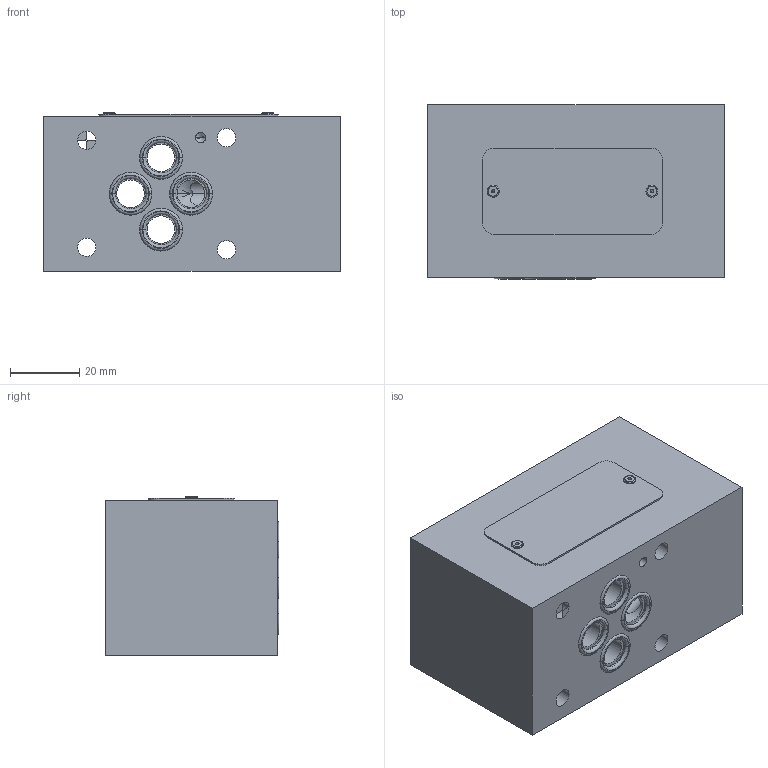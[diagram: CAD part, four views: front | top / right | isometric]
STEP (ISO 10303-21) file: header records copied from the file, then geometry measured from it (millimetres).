
FILE_DESCRIPTION((''),'2;1');
FILE_NAME('30708100_ASM','2023-10-12T',('l.soukupova'),(''),'PRO/ENGINEER BY PARAMETRIC TECHNOLOGY CORPORATION, 2015440','PRO/ENGINEER BY PARAMETRIC TECHNOLOGY CORPORATION, 2015440','');
FILE_SCHEMA(('AUTOMOTIVE_DESIGN { 1 0 10303 214 1 1 1 1 }'));
Length unit declared in the file: millimetre
Products named in the file (8): 30708201; RD_LABEL_25X52_159703; AF_1932_16485; ORAR00012_201524_AF4; ORAR00012_201524_AF5; ORAR00012_201524_AF6; ORAR00012_201524_AF7; 30708100_ASM
Assembly tree (8 placements, depth 2):
  30708100_ASM
    30708201
    RD_LABEL_25X52_159703
    AF_1932_16485  x2
    ORAR00012_201524_AF4
    ORAR00012_201524_AF5
    ORAR00012_201524_AF6
    ORAR00012_201524_AF7
Bounding box: 86 x 50.38 x 46 mm (x, y, z)
Volume: 167966.1 mm3; surface area: 35421.6 mm2
Topology: 8 solids, 11 shells, 168 faces, 512 edges, 431 vertices
Faces by surface type: cylinder 80, torus 36, plane 34, cone 18
Entity records: 9080 total; most frequent: CARTESIAN_POINT 1348, DIRECTION 1126, ORIENTED_EDGE 694, PRESENTATION_STYLE_ASSIGNMENT 623, STYLED_ITEM 533, CURVE_STYLE 524, AXIS2_PLACEMENT_3D 454, EDGE_CURVE 353
